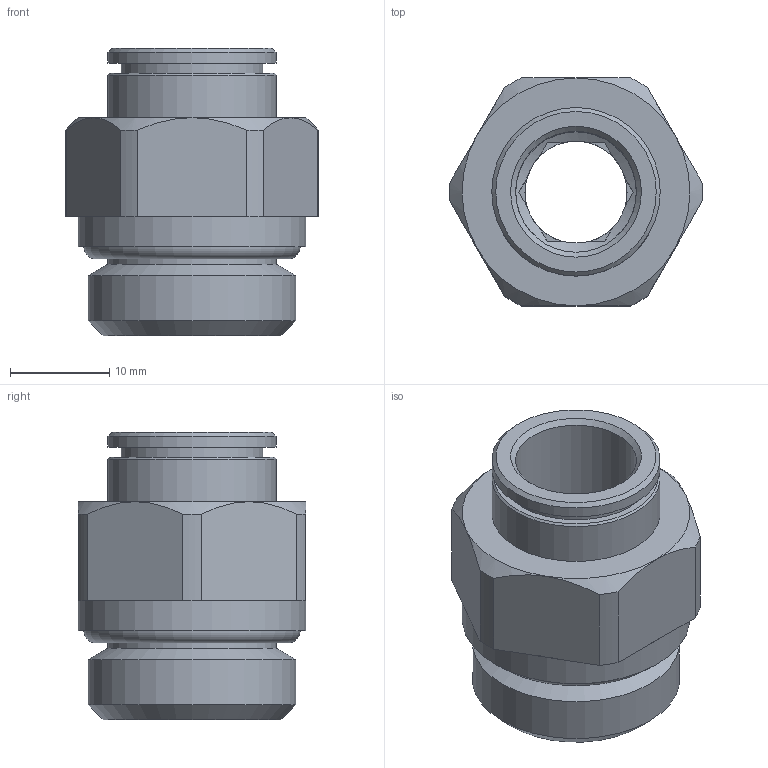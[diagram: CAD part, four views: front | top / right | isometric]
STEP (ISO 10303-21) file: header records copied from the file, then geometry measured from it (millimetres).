
FILE_DESCRIPTION(/* description */ (''),/* implementation_level */ '2;1');
FILE_NAME(/* name */ '200115ES_STX_01_12_1-2_20.04.15',/* time_stamp */ '2015-04-20T08:53:17+02:00',/* author */ (''),/* organization */ (''),/* preprocessor_version */ 'ST-DEVELOPER v14',/* originating_system */ 'HiCAD 2013 1802.3 Build 408',/* authorisation */ '');
FILE_SCHEMA (('AUTOMOTIVE_DESIGN { 1 0 10303 214 1 1 1 1 }'));
Length unit declared in the file: millimetre
Products named in the file (4): Root; OR 17.12X2.62; R200115-ES; DR12
Assembly tree (3 placements, depth 2):
  Root
    OR 17.12X2.62
    R200115-ES
    DR12
Bounding box: 25.49 x 23 x 29 mm (x, y, z)
Volume: 6704.8 mm3; surface area: 5372 mm2
Topology: 3 solids, 3 shells, 76 faces, 177 edges, 111 vertices
Faces by surface type: plane 40, cylinder 17, cone 16, torus 3
Full cylindrical faces by diameter (mm): 10.3 x1, 12.15 x1, 12.2 x1, 13.2 x1, 14.3 x1, 14.5 x1, 17 x3, 20.955 x1, 23 x1
Entity records: 3534 total; most frequent: DIRECTION 400, CARTESIAN_POINT 330, PRESENTATION_STYLE_ASSIGNMENT 293, COLOUR_RGB 293, DRAUGHTING_PRE_DEFINED_CURVE_FONT 290, CURVE_STYLE 290, OVER_RIDING_STYLED_ITEM 290, ORIENTED_EDGE 290
